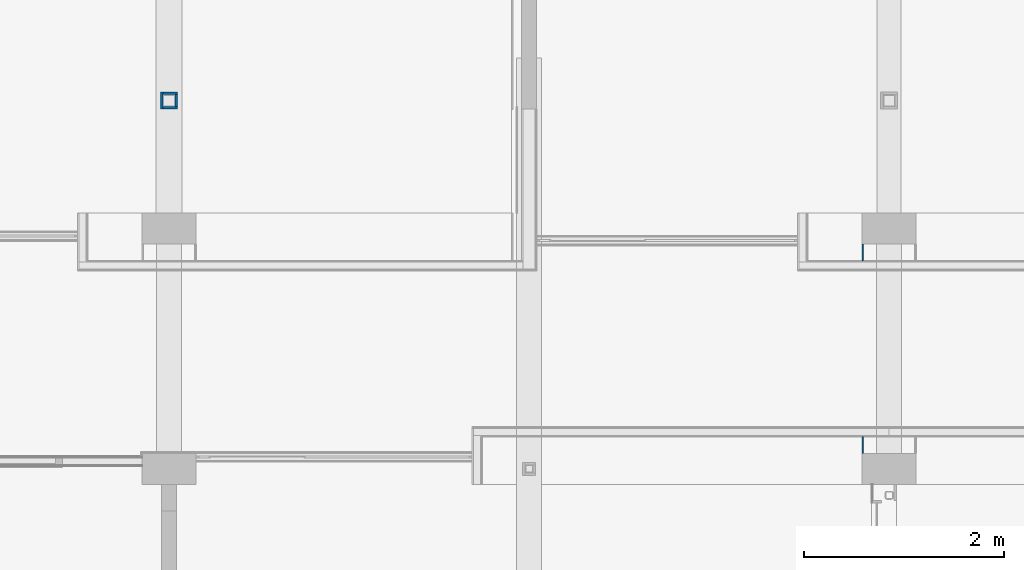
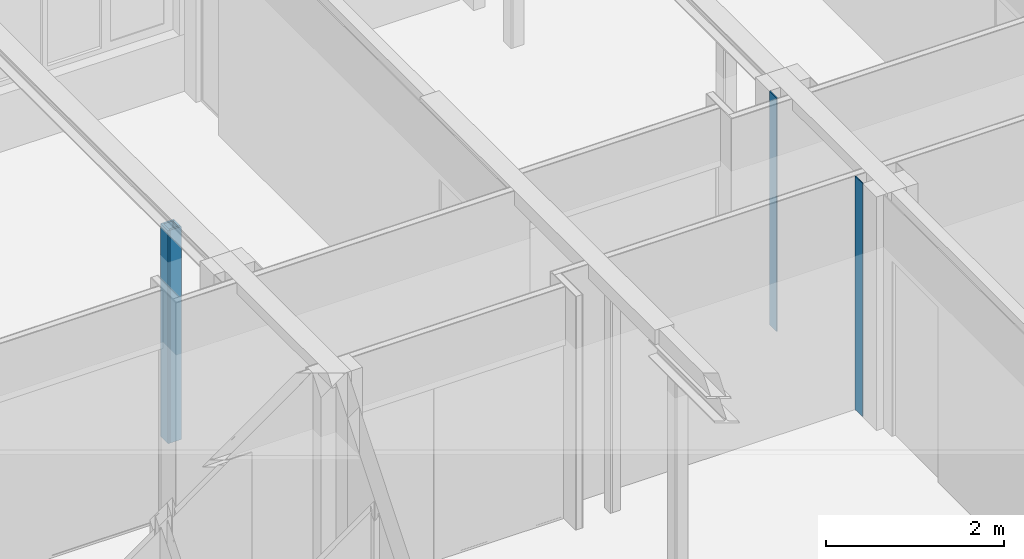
# One storey, part 61 of 117: 6 walls.
"""IFC2X3 building model written with IfcOpenShell, lengths in millimetres."""

from ifc_helpers import new_model, entity, si_unit, converted_unit, derived_unit, money_unit, direction, frame, origin_with_axes, place, context, subcontext, project, spatial, faceted_brep, material, type_object, element, save


model = new_model("IFC2X3")

# Units and contexts
model_context = context("Model", 3, precision=0.01, world=origin_with_axes(), true_north=direction((0.0, 1.0)))
body_context = subcontext(model_context, "Body", "Model", "MODEL_VIEW")
ifc_project = project(units=[si_unit("LENGTHUNIT", "METRE", prefix="MILLI"), si_unit("AREAUNIT", "SQUARE_METRE"), si_unit("VOLUMEUNIT", "CUBIC_METRE"), converted_unit("PLANEANGLEUNIT", "DEGREE", entity("IfcPlaneAngleMeasure", 0.0174532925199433), si_unit("PLANEANGLEUNIT", "RADIAN"), dimensions=[0, 0, 0, 0, 0, 0, 0]), money_unit("EUR"), converted_unit("TIMEUNIT", "Year", entity("IfcTimeMeasure", 31557600.0), si_unit("TIMEUNIT", "SECOND"), dimensions=[0, 0, 1, 0, 0, 0, 0]), si_unit("MASSUNIT", "GRAM", prefix="KILO"), si_unit("THERMODYNAMICTEMPERATUREUNIT", "DEGREE_CELSIUS"), si_unit("LUMINOUSINTENSITYUNIT", "LUMEN"), si_unit("ENERGYUNIT", "JOULE", prefix="MEGA"), derived_unit("THERMALCONDUCTANCEUNIT", [(si_unit("POWERUNIT", "WATT"), 1), (si_unit("LENGTHUNIT", "METRE"), -1), (si_unit("THERMODYNAMICTEMPERATUREUNIT", "KELVIN"), -1)]), derived_unit("SPECIFICHEATCAPACITYUNIT", [(si_unit("ENERGYUNIT", "JOULE"), 1), (si_unit("MASSUNIT", "GRAM", prefix="KILO"), -1), (si_unit("THERMODYNAMICTEMPERATUREUNIT", "KELVIN"), -1)]), derived_unit("MASSDENSITYUNIT", [(si_unit("MASSUNIT", "GRAM", prefix="KILO"), 1), (si_unit("VOLUMEUNIT", "CUBIC_METRE"), -1)])], contexts=[model_context])

# Site, building, storey
site_placement = place(None, origin_with_axes())
site = spatial("IfcSite", under=ifc_project, at=site_placement, Name="Site", CompositionType="ELEMENT")
building_placement = place(site_placement, origin_with_axes())
building = spatial("IfcBuilding", under=site, at=building_placement, Name="Naam gebouw", CompositionType="ELEMENT")
storey_placement = place(building_placement, frame((0.0, 0.0, 4150.0), z_axis=(0.0, 0.0, 1.0), x_axis=(1.0, 0.0, 0.0)))
storey = spatial("IfcBuildingStorey", under=building, at=storey_placement, Name="1e verdieping N", CompositionType="ELEMENT", Elevation=4150.0)

# Walls
ifc_material = material(Name="Gipsplaat")
wall_type_1 = type_object("IfcWallType", Name="Metalstud 100 enkel 100", PredefinedType="NOTDEFINED")
wall_1_placement = place(storey_placement, frame((42929.99999999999, 18180.91242510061, 0.0), z_axis=(0.0, 0.0, 1.0), x_axis=(0.0, 1.0, 0.0)))
element("IfcWall", 1, at=wall_1_placement, inside=storey, type_object=wall_type_1, material=ifc_material, Name="_Wand-x", context=body_context, shape_type="Brep", body=[
    faceted_brep([(164.9999999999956, -12.50000000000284, 0.0), (164.9999999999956, 0.0, 0.0), (164.9999999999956, 0.0, 3200.0), (164.9999999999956, -12.50000000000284, 3200.0), (0.0, -12.50000000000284, 0.0), (0.0, 0.0, 0.0), (0.0, 0.0, 3200.0), (0.0, -12.50000000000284, 3200.0)], [[[0, 1, 2, 3]], [[4, 5, 1, 0]], [[1, 5, 6, 2]], [[2, 6, 7, 3]], [[4, 0, 3, 7]], [[5, 4, 7, 6]]]),
])
wall_2_placement = place(storey_placement, frame((42929.99999999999, 20105.91242510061, 0.0), z_axis=(0.0, 0.0, 1.0), x_axis=(0.0, 1.0, 0.0)))
element("IfcWall", 2, at=wall_2_placement, inside=storey, type_object=wall_type_1, material=ifc_material, Name="_Wand-x", context=body_context, shape_type="Brep", body=[
    faceted_brep([(164.9999999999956, -12.50000000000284, 0.0), (164.9999999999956, 0.0, 0.0), (164.9999999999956, 0.0, 3200.0), (164.9999999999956, -12.50000000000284, 3200.0), (0.0, -12.50000000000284, 0.0), (0.0, 0.0, 0.0), (0.0, 0.0, 3200.0), (0.0, -12.50000000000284, 3200.0)], [[[0, 1, 2, 3]], [[0, 4, 5, 1]], [[1, 5, 6, 2]], [[2, 6, 7, 3]], [[4, 0, 3, 7]], [[5, 4, 7, 6]]]),
])
wall_type_2 = type_object("IfcWallType", Name="Gipsplaat 25", PredefinedType="NOTDEFINED")
wall_3_placement = place(storey_placement, frame((36084.99999999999, 21620.9124251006, 0.0), z_axis=(0.0, 0.0, 1.0), x_axis=(0.0, 1.0, 0.0)))
element("IfcWall", 3, at=wall_3_placement, inside=storey, type_object=wall_type_2, material=ifc_material, Name="_Wand-x", context=body_context, shape_type="Brep", body=[
    faceted_brep([(145.0000000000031, 25.00000000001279, 0.0), (145.0000000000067, 0.0, 0.0), (24.99999999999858, 0.0, 0.0), (24.99999999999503, 25.00000000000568, 0.0), (145.0000000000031, 25.00000000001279, 2920.000000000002), (145.0000000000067, 0.0, 2920.000000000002), (24.99999999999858, 0.0, 2920.000000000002), (24.99999999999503, 25.00000000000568, 2920.000000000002)], [[[0, 1, 2, 3]], [[1, 0, 4, 5]], [[1, 5, 6, 2]], [[7, 3, 2, 6]], [[4, 0, 3, 7]], [[5, 4, 7, 6]]]),
])
wall_4_placement = place(storey_placement, frame((35915.0, 21620.91242510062, 0.0), z_axis=(0.0, 0.0, 1.0), x_axis=(0.0, 1.0, 0.0)))
element("IfcWall", 4, at=wall_4_placement, inside=storey, type_object=wall_type_2, material=ifc_material, Name="_Wand-x", context=body_context, shape_type="Brep", body=[
    faceted_brep([(169.999999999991, -24.99999999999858, 2920.000000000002), (169.999999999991, 0.0, 2920.000000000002), (0.0, 0.0, 2920.000000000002), (0.0, -24.99999999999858, 2920.000000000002), (169.999999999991, -24.99999999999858, 0.0), (169.999999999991, 0.0, 0.0), (0.0, 0.0, 0.0), (0.0, -24.99999999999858, 0.0)], [[[0, 1, 2, 3]], [[1, 0, 4, 5]], [[1, 5, 6, 2]], [[7, 3, 2, 6]], [[4, 0, 3, 7]], [[5, 4, 7, 6]]]),
])
wall_5_placement = place(storey_placement, frame((35915.0, 21620.91242510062, 0.0), z_axis=(0.0, 0.0, 1.0), x_axis=(1.0, 0.0, 0.0)))
element("IfcWall", 5, at=wall_5_placement, inside=storey, type_object=wall_type_2, material=ifc_material, Name="_Wand-x", context=body_context, shape_type="Brep", body=[
    faceted_brep([(170.0000000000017, 25.00000000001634, 0.0), (169.9999999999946, 0.0, 0.0), (24.99999999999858, 0.0, 0.0), (24.99999999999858, 25.00000000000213, 0.0), (170.0000000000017, 25.00000000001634, 2920.000000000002), (169.9999999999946, 0.0, 2920.000000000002), (24.99999999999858, 0.0, 2920.000000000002), (24.99999999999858, 25.00000000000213, 2920.000000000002)], [[[0, 1, 2, 3]], [[1, 0, 4, 5]], [[1, 5, 6, 2]], [[7, 3, 2, 6]], [[4, 0, 3, 7]], [[5, 4, 7, 6]]]),
])
wall_6_placement = place(storey_placement, frame((35915.0, 21790.91242510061, 0.0), z_axis=(0.0, 0.0, 1.0), x_axis=(1.0, 0.0, 0.0)))
element("IfcWall", 6, at=wall_6_placement, inside=storey, type_object=wall_type_2, material=ifc_material, Name="_Wand-x", context=body_context, shape_type="Brep", body=[
    faceted_brep([(170.0000000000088, -24.99999999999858, 2920.000000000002), (170.0000000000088, 0.0, 2920.000000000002), (24.99999999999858, 0.0, 2920.000000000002), (24.99999999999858, -24.99999999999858, 2920.000000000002), (170.0000000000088, -24.99999999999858, 0.0), (170.0000000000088, 0.0, 0.0), (24.99999999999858, 0.0, 0.0), (24.99999999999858, -24.99999999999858, 0.0)], [[[0, 1, 2, 3]], [[1, 0, 4, 5]], [[1, 5, 6, 2]], [[7, 3, 2, 6]], [[4, 0, 3, 7]], [[5, 4, 7, 6]]]),
])

save(model, "model.ifc")
